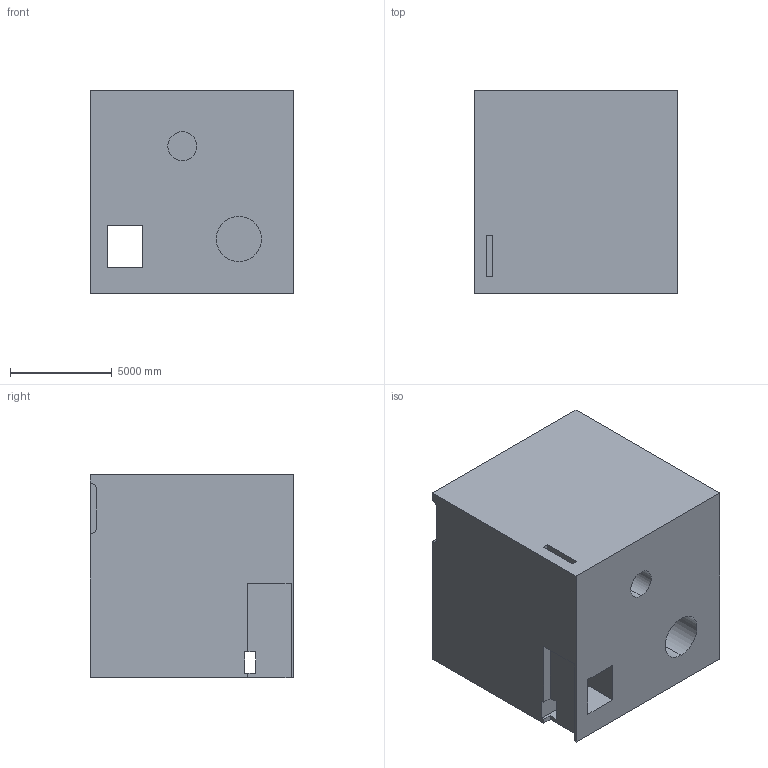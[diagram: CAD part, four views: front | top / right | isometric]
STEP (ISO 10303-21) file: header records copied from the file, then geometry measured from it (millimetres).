
FILE_DESCRIPTION (( 'STEP AP203' ), '1' );
FILE_NAME ('178.STEP', '2022-09-06T12:50:35', ( 'user' ), ( '' ), 'SwSTEP 2.0', 'SolidWorks 2021', '' );
FILE_SCHEMA (( 'CONFIG_CONTROL_DESIGN' ));
Length unit declared in the file: centimetre
Products named in the file (1): 178
Bounding box: 10000 x 10000 x 10000 mm (x, y, z)
Volume: 893089125528.7 mm3; surface area: 796462173.9 mm2
Topology: 1 solids, 1 shells, 40 faces, 114 edges, 76 vertices
Faces by surface type: plane 32, cylinder 8
Entity records: 1383 total; most frequent: CARTESIAN_POINT 231, ORIENTED_EDGE 228, DIRECTION 212, EDGE_CURVE 114, LINE 98, VECTOR 98, VERTEX_POINT 76, AXIS2_PLACEMENT_3D 57
